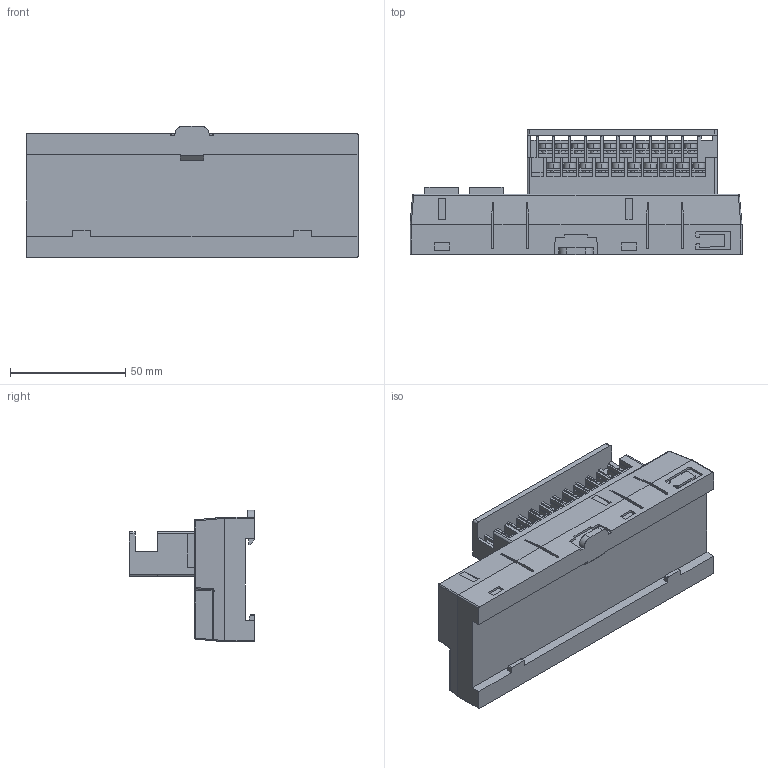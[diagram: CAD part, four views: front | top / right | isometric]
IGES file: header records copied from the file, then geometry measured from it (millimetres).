
Start section: SolidWorks IGES file using analytic representation for surfaces
Global section: file name: C:\Users\kawanishi.SHINKO-TECHNOS\かわにし\3D データ\RG-M3\D20-026\HP_3D\RG_iges\RG-M□_16_200420.IGS; native system: SolidWorks 2022; preprocessor: SolidWorks 2022; author: kawanishi; date: 251119.134542; units: millimetre
Bounding box: 144 x 54.3 x 57.01 mm (x, y, z)
Surface area: 43589 mm2 (no closed solid volume)
Topology: 0 solids, 0 shells, 1103 faces, 9264 edges, 9264 vertices
Faces by surface type: bspline 977, revolution 126
